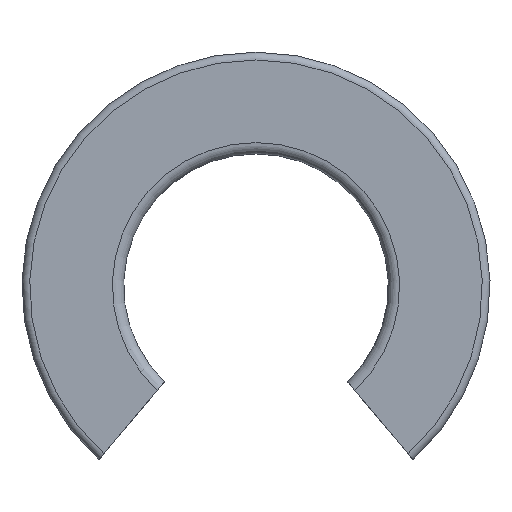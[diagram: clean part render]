
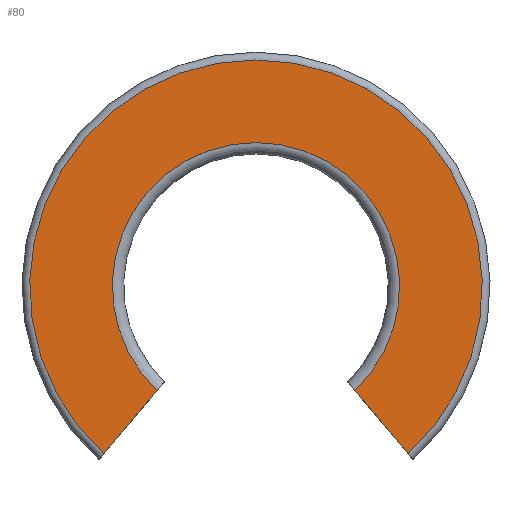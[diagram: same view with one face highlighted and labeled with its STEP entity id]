
A CAD part, left-side view. The second image highlights one B-rep face of the part: STEP entity #80.
In plain terms, the highlighted planar face has unit normal (-1, 0, 0).
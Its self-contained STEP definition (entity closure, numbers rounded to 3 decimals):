
#80=ADVANCED_FACE('',(#112),#113,.F.);
#112=FACE_OUTER_BOUND('',#164,.T.);
#113=PLANE('',#165);
#164=EDGE_LOOP('',(#261,#262,#263,#264));
#165=AXIS2_PLACEMENT_3D('',#265,#266,#267);
#261=ORIENTED_EDGE('',*,*,#428,.F.);
#262=ORIENTED_EDGE('',*,*,#454,.F.);
#263=ORIENTED_EDGE('',*,*,#462,.F.);
#264=ORIENTED_EDGE('',*,*,#463,.T.);
#265=CARTESIAN_POINT('',(0.0,11.119,0.0));
#266=DIRECTION('',(1.0,0.0,0.0));
#267=DIRECTION('',(0.0,0.0,-1.0));
#428=EDGE_CURVE('',#500,#501,#502,.T.);
#454=EDGE_CURVE('',#550,#500,#552,.T.);
#462=EDGE_CURVE('',#564,#550,#565,.T.);
#463=EDGE_CURVE('',#564,#501,#566,.T.);
#500=VERTEX_POINT('',#620);
#501=VERTEX_POINT('',#621);
#502=LINE('',#622,#623);
#550=VERTEX_POINT('',#710);
#552=CIRCLE('',#717,7.058);
#564=VERTEX_POINT('',#740);
#565=LINE('',#741,#742);
#566=CIRCLE('',#743,11.119);
#620=CARTESIAN_POINT('',(0.0,4.859,-5.119));
#621=CARTESIAN_POINT('',(0.0,7.473,-8.233));
#622=CARTESIAN_POINT('',(0.0,4.925,-5.197));
#623=VECTOR('',#820,1.0);
#710=CARTESIAN_POINT('',(0.0,-4.859,-5.119));
#717=AXIS2_PLACEMENT_3D('',#843,#844,#845);
#740=CARTESIAN_POINT('',(0.0,-7.473,-8.233));
#741=CARTESIAN_POINT('',(0.0,4.263,5.753));
#742=VECTOR('',#859,1.0);
#743=AXIS2_PLACEMENT_3D('',#860,#861,#862);
#820=DIRECTION('',(0.0,0.643,-0.766));
#843=CARTESIAN_POINT('',(0.0,0.0,0.0));
#844=DIRECTION('',(-1.0,0.0,0.0));
#845=DIRECTION('',(0.0,0.0,1.0));
#859=DIRECTION('',(0.0,0.643,0.766));
#860=CARTESIAN_POINT('',(0.0,0.0,0.0));
#861=DIRECTION('',(-1.0,0.0,0.0));
#862=DIRECTION('',(0.0,0.0,1.0));
